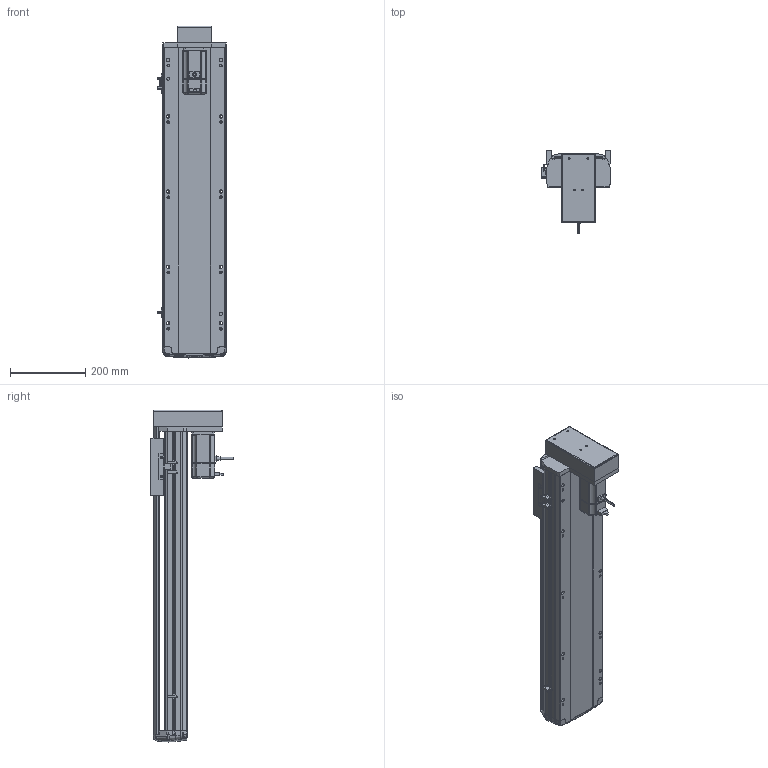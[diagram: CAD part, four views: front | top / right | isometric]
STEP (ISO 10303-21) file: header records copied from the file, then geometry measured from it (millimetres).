
FILE_DESCRIPTION (( 'STEP AP214' ), '1' );
FILE_NAME ('RTH17-XX-600-M-M40-C4.STEP', '2025-10-24T09:06:09', ( '' ), ( '' ), 'SwSTEP 2.0', 'SolidWorks 2018', '' );
FILE_SCHEMA (( 'AUTOMOTIVE_DESIGN' ));
Length unit declared in the file: millimetre
Products named in the file (10): RTH17-XX-600-M-M40-C4; N_RTH17-M-007上盖^RTH17-XX-XX-M-M40-C4（方程式）; N_RTH-BL-012 感应片(外置)^RTH17-XX-XX-M-M40-C4（方程式）; N_OMRON EE-SX672 換覜ん^RTH17-XX-XX-M-M40-C4ㄗ源最宒ㄘ; N_RTH17-E-004丝杆螺母连接座^RTH17-XX-XX-M-M40-C4（方程式）; N_RTH17-M-018盖子^RTH17-XX-XX-M-M40-C4（方程式）; N_RTH17-GY-001P^RTH17-XX-XX-M-M40-C4（方程式）; N_RTH17-M-008-P40电机安装板下折^RTH17-XX-XX-M-M40-C4（方程式）; N_RTH17-M-011底座^RTH17-XX-XX-M-M40-C4（方程式）; N_M40^RTH17-XX-XX-M-M40-C4（方程式）
Assembly tree (11 placements, depth 2):
  RTH17-XX-600-M-M40-C4
    N_RTH17-M-011底座^RTH17-XX-XX-M-M40-C4（方程式）
    N_RTH17-M-007上盖^RTH17-XX-XX-M-M40-C4（方程式）
    N_M40^RTH17-XX-XX-M-M40-C4（方程式）
    N_OMRON EE-SX672 換覜ん^RTH17-XX-XX-M-M40-C4ㄗ源最宒ㄘ  x3
    N_RTH-BL-012 感应片(外置)^RTH17-XX-XX-M-M40-C4（方程式）
    N_RTH17-M-008-P40电机安装板下折^RTH17-XX-XX-M-M40-C4（方程式）
    N_RTH17-M-018盖子^RTH17-XX-XX-M-M40-C4（方程式）
    N_RTH17-E-004丝杆螺母连接座^RTH17-XX-XX-M-M40-C4（方程式）
    N_RTH17-GY-001P^RTH17-XX-XX-M-M40-C4（方程式）
Bounding box: 183.5 x 219 x 883.19 mm (x, y, z)
Volume: 7108015.3 mm3; surface area: 1044683.2 mm2
Topology: 10 solids, 12 shells, 1647 faces, 4590 edges, 2992 vertices
Faces by surface type: plane 830, cylinder 450, bspline 330, cone 28, torus 9
Entity records: 47948 total; most frequent: CARTESIAN_POINT 19406, ORIENTED_EDGE 6204, DIRECTION 5110, EDGE_CURVE 3106, VERTEX_POINT 2028, LINE 1756, VECTOR 1756, AXIS2_PLACEMENT_3D 1677
